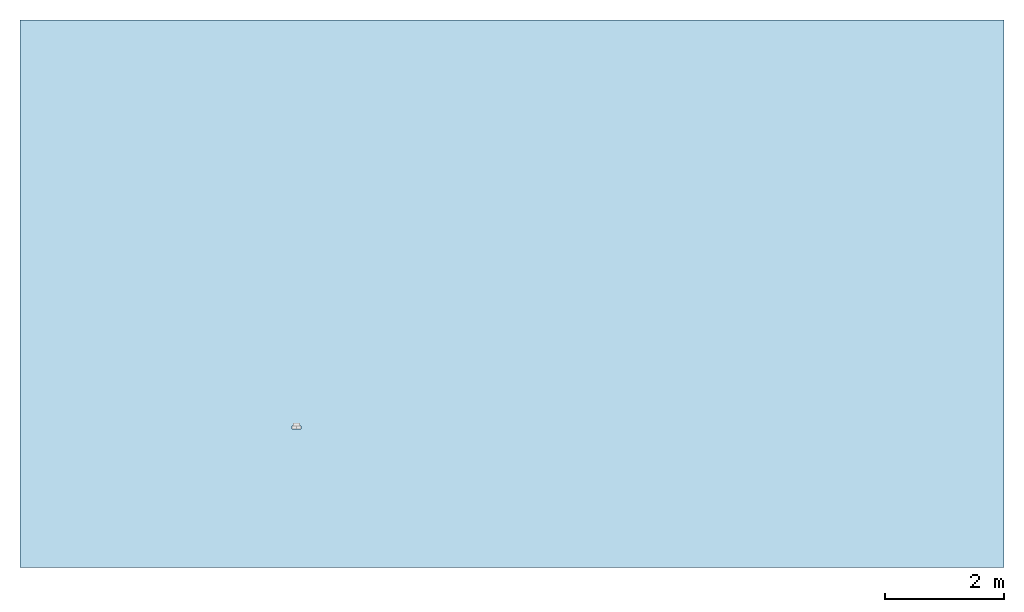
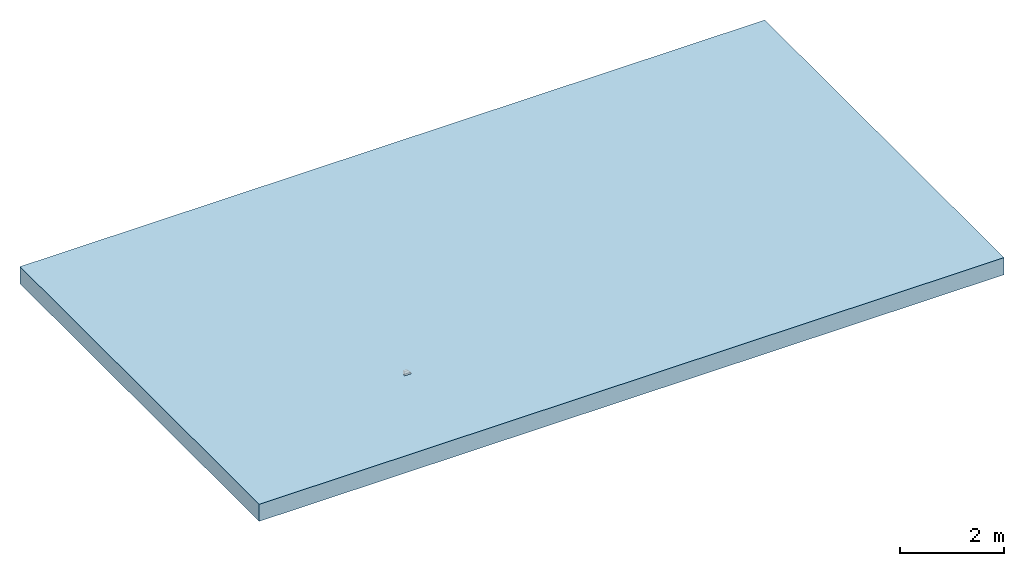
# One storey, part 1 of 2: 1 slab, 2 openings.
"""IFC2X3 building model written with IfcOpenShell, lengths in millimetres."""

from ifc_helpers import new_model, entity, si_unit, converted_unit, direction, frame, frame_2d, origin, origin_2d_with_axis, place, context, subcontext, project, spatial, rectangle, extrude, faceted_brep, material, layer, layer_set, layer_usage, element, save


model = new_model("IFC2X3")

# Units and contexts
model_context = context("Model", 3, precision=1e-06, world=origin(), true_north=direction((2.0, 6.12303176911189e-17, 1.0)))
context_of_model = context(None, 3, precision=1e-06, world=origin(), true_north=direction((2.0, 6.12303176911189e-17, 1.0)))
body_context = subcontext(model_context, "Body", "Model", "MODEL_VIEW")
ifc_project = project(units=[si_unit("LENGTHUNIT", "METRE", prefix="MILLI"), si_unit("AREAUNIT", "SQUARE_METRE", prefix="MILLI"), si_unit("VOLUMEUNIT", "CUBIC_METRE", prefix="MILLI"), converted_unit("PLANEANGLEUNIT", "DEGREE", entity("IfcRatioMeasure", 0.0174532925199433), si_unit("PLANEANGLEUNIT", "RADIAN"), dimensions=[0, 0, 0, 0, 0, 0, 0]), si_unit("TIMEUNIT", "SECOND")], contexts=[model_context, context_of_model])

# Site, building, storey
site_placement = place(None, origin())
site = spatial("IfcSite", under=ifc_project, at=site_placement, Name="Default", CompositionType="ELEMENT")
building_placement = place(site_placement, origin())
building = spatial("IfcBuilding", under=site, at=building_placement, CompositionType="ELEMENT")
storey_placement = place(building_placement, origin())
storey = spatial("IfcBuildingStorey", under=building, at=storey_placement, Name="Level 1", CompositionType="ELEMENT", Elevation=0.0)

# Slab, openings
ifc_material = material(Name="Plant")
ifc_layer = layer(ifc_material, 400.0)
ifc_layer_set = layer_set([ifc_layer], Name="Floor:Generic Floor - 400mm")
ifc_layer_usage = layer_usage(ifc_layer_set, "AXIS3", "POSITIVE", 0.0)
slab_placement = place(storey_placement, frame((-17967.0691536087, -3738.31688706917, -400.0)))
slab = element("IfcSlab", 1, at=slab_placement, inside=storey, material=ifc_layer_usage, Name="Floor:Generic Floor - 400mm", ObjectType="Floor:Generic Floor - 400mm", PredefinedType="FLOOR", context=body_context, shape_type="SweptSolid", body=[
    extrude(rectangle(XDim=9180.0, YDim=16500.0, at=frame_2d((0.0, 0.0), x_axis=(0.0, -1.0))), frame((8250.0, 4590.0, 400.0), z_axis=(0.0, 0.0, -1.0), x_axis=(-1.0, 0.0, 0.0)), (0.0, 0.0, 1.0), 400.0),
])
opening_1_placement = place(slab_placement, frame((4561.79407136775, 2325.59509511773, 120.0)))
element("IfcOpeningElement", 2, at=opening_1_placement, cuts=slab, ObjectType="Recess", context=body_context, shape_type="SweptSolid", body=[
    extrude(rectangle(XDim=280.350941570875, YDim=1.99999999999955, at=origin_2d_with_axis()), frame((4562.79407136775, 2575.77056590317, -1754.0), z_axis=(0.0, 0.0, 1.0), x_axis=(0.0, 1.0, 0.0)), (0.0, 0.0, 1.0), 279.000000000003),
])
opening_2_placement = place(slab_placement, frame((4561.79407136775, 2325.59509511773, 120.0)))
element("IfcOpeningElement", 3, at=opening_2_placement, cuts=slab, ObjectType="Recess", context=body_context, shape_type="Brep", body=[
    faceted_brep([(0.0, 50.0, 280.0), (150.0, 50.0, 280.0), (150.0, 0.0, 280.0), (0.0, 0.0, 280.0), (150.0, 50.0, 0.0), (0.0, 50.0, 0.0), (0.0, 0.0, 0.0), (150.0, 0.0, 0.0), (88.8205457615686, 50.0, 128.135604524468), (102.085498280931, 50.0, 122.641081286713), (113.476371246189, 50.0, 113.900557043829), (74.5854982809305, 50.0, 130.009684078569), (127.71141872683, 50.0, 89.2447315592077), (129.585498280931, 50.0, 75.009684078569), (122.216895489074, 50.0, 102.509684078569), (60.3504508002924, 50.0, 128.135604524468), (47.0854982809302, 50.0, 122.641081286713), (35.6946253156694, 50.0, 113.90055704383), (21.4595778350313, 50.0, 89.2447315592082), (26.9541010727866, 50.0, 102.50968407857), (127.71141872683, 50.0, 60.7746365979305), (122.216895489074, 50.0, 47.5096840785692), (113.476371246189, 50.0, 36.1188111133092), (88.8205457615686, 50.0, 21.8837636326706), (102.085498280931, 50.0, 27.3782868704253), (74.5854982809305, 50.0, 20.0096840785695), (26.9541010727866, 50.0, 47.5096840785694), (21.4595778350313, 50.0, 60.7746365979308), (19.58549828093, 50.0, 75.0096840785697), (60.3504508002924, 50.0, 21.8837636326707), (47.0854982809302, 50.0, 27.3782868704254), (35.6946253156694, 50.0, 36.1188111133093), (88.8205457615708, 100.0, 128.135604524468), (74.5854982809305, 100.0, 130.009684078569), (88.8205457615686, 100.0, 21.8837636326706), (102.085498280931, 100.0, 27.3782868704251), (102.085498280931, 100.0, 122.641081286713), (113.476371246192, 100.0, 113.900557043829), (122.216895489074, 100.0, 47.5096840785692), (122.216895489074, 100.0, 102.509684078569), (60.3504508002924, 100.0, 21.8837636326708), (60.3504508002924, 100.0, 128.135604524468), (47.0854982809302, 100.0, 122.641081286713), (35.6946253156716, 100.0, 113.900557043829), (35.6946253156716, 100.0, 36.1188111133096), (26.9541010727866, 100.0, 102.509684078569), (19.58549828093, 100.0, 75.0096840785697), (21.4595778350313, 100.0, 60.774636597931), (21.4595778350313, 100.0, 89.2447315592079), (127.71141872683, 100.0, 60.7746365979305), (127.71141872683, 100.0, 89.2447315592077), (113.476371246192, 100.0, 36.1188111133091), (26.9541010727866, 100.0, 47.5096840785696), (47.0854982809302, 100.0, 27.3782868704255), (74.5854982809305, 100.0, 20.0096840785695), (129.585498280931, 100.0, 75.0096840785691)], [[[0, 1, 2]], [[2, 3, 0]], [[4, 5, 6]], [[6, 7, 4]], [[8, 9, 1]], [[10, 1, 9]], [[11, 8, 1]], [[12, 13, 4]], [[1, 10, 14]], [[1, 14, 12]], [[4, 1, 12]], [[15, 11, 0]], [[1, 0, 11]], [[16, 15, 0]], [[0, 17, 16]], [[0, 18, 19]], [[0, 19, 17]], [[5, 18, 0]], [[4, 20, 21]], [[4, 21, 22]], [[23, 4, 24]], [[22, 24, 4]], [[4, 23, 25]], [[25, 5, 4]], [[4, 13, 20]], [[5, 26, 27]], [[5, 27, 28]], [[5, 29, 30]], [[26, 5, 31]], [[30, 31, 5]], [[5, 25, 29]], [[18, 5, 28]], [[5, 0, 3]], [[3, 6, 5]], [[6, 3, 2]], [[2, 7, 6]], [[7, 2, 1]], [[1, 4, 7]], [[32, 33, 34]], [[32, 35, 36]], [[37, 38, 39]], [[36, 38, 37]], [[40, 33, 41]], [[42, 43, 41]], [[44, 43, 45]], [[46, 47, 48]], [[43, 40, 41]], [[47, 45, 48]], [[49, 50, 39]], [[49, 39, 38]], [[51, 38, 36]], [[35, 32, 34]], [[35, 51, 36]], [[40, 34, 33]], [[47, 52, 45]], [[45, 52, 44]], [[53, 40, 44]], [[43, 44, 40]], [[40, 54, 34]], [[55, 50, 49]], [[55, 12, 50]], [[50, 14, 39]], [[36, 37, 9]], [[39, 10, 37]], [[12, 14, 50]], [[55, 13, 12]], [[32, 8, 11]], [[36, 9, 8]], [[9, 37, 10]], [[39, 14, 10]], [[36, 8, 32]], [[11, 33, 32]], [[42, 41, 15]], [[42, 16, 43]], [[48, 45, 19]], [[17, 45, 43]], [[46, 48, 18]], [[11, 15, 41]], [[15, 16, 42]], [[16, 17, 43]], [[17, 19, 45]], [[48, 19, 18]], [[18, 28, 46]], [[33, 11, 41]], [[46, 27, 47]], [[47, 26, 52]], [[29, 54, 40]], [[52, 31, 44]], [[27, 26, 47]], [[46, 28, 27]], [[29, 53, 30]], [[44, 31, 30]], [[29, 40, 53]], [[52, 26, 31]], [[30, 53, 44]], [[29, 25, 54]], [[35, 34, 23]], [[35, 24, 51]], [[49, 38, 21]], [[22, 38, 51]], [[55, 49, 20]], [[25, 23, 34]], [[23, 24, 35]], [[24, 22, 51]], [[22, 21, 38]], [[49, 21, 20]], [[20, 13, 55]], [[54, 25, 34]]]),
])

save(model, "model.ifc")
